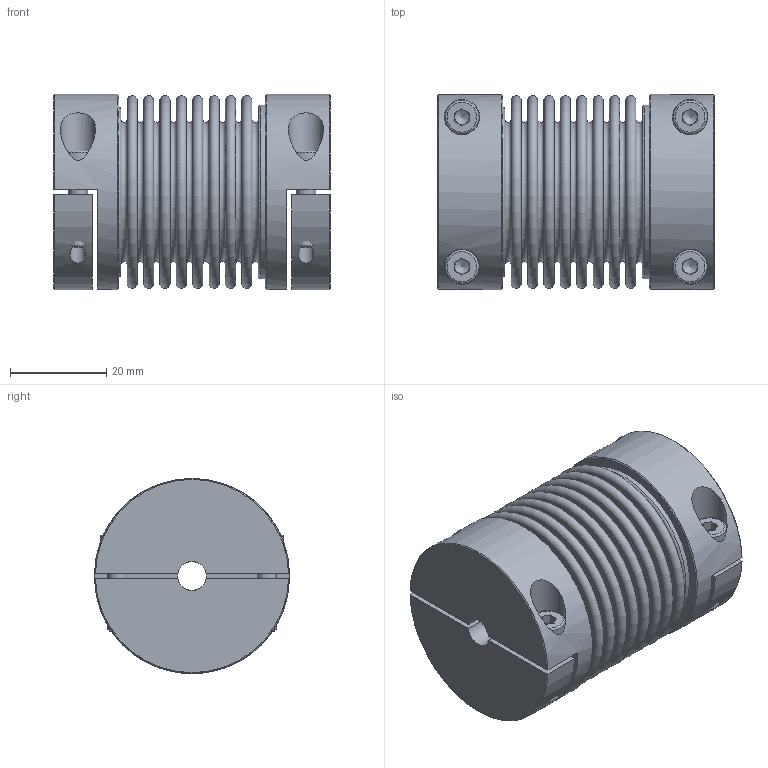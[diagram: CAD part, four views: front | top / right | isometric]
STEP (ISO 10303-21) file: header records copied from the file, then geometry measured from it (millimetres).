
FILE_DESCRIPTION( ( 'Unknown' ), '1' );
FILE_NAME( 'K:/Konstruktion/KB2H/KB2H-100-57.stp', 'Unknown', ( 'Unknown' ), ( 'Unknown' ), 'PSStep 16.0.42', 'Unknown', ' ' );
FILE_SCHEMA( ( 'AUTOMOTIVE_DESIGN { 1 0 10303 214 1 1 1 1 }' ) );
Length unit declared in the file: millimetre
Products named in the file (5): Assem1; KNH-100; Socket Head Cap Screw_DIN_DIN 912 M4 x 16 --- 16N_5; BL100_Standard_1
Assembly tree (9 placements, depth 2):
  Assem1
    KNH-100  x2
    KNH-100  x2
    Socket Head Cap Screw_DIN_DIN 912 M4 x 16 --- 16N_5  x4
    BL100_Standard_1
Bounding box: 57.32 x 40.5 x 40.5 mm (x, y, z)
Volume: 36624.5 mm3; surface area: 40641.1 mm2
Topology: 9 solids, 9 shells, 212 faces, 420 edges, 268 vertices
Faces by surface type: plane 120, torus 46, cylinder 32, cone 14
Full cylindrical faces by diameter (mm): 3.242 x4, 4 x4, 4.2 x4, 6 x2, 7 x4, 7.3 x4, 34.343 x1, 35.143 x1, 35.2 x1, 36 x1, 40.5 x2
Entity records: 4184 total; most frequent: CARTESIAN_POINT 698, DIRECTION 538, ORIENTED_EDGE 324, AXIS2_PLACEMENT_3D 249, EDGE_LOOP 232, FACE_OUTER_BOUND 179, EDGE_CURVE 162, VERTEX_POINT 157
